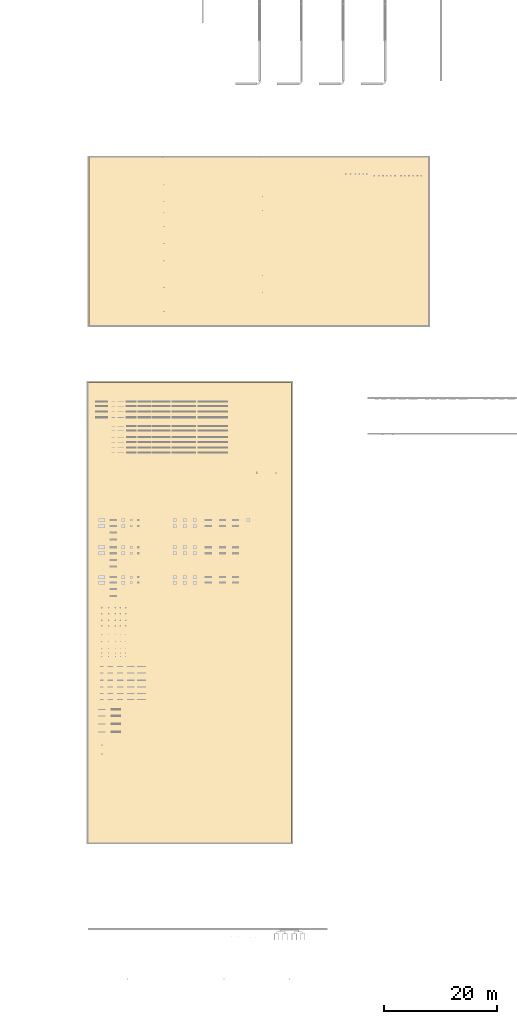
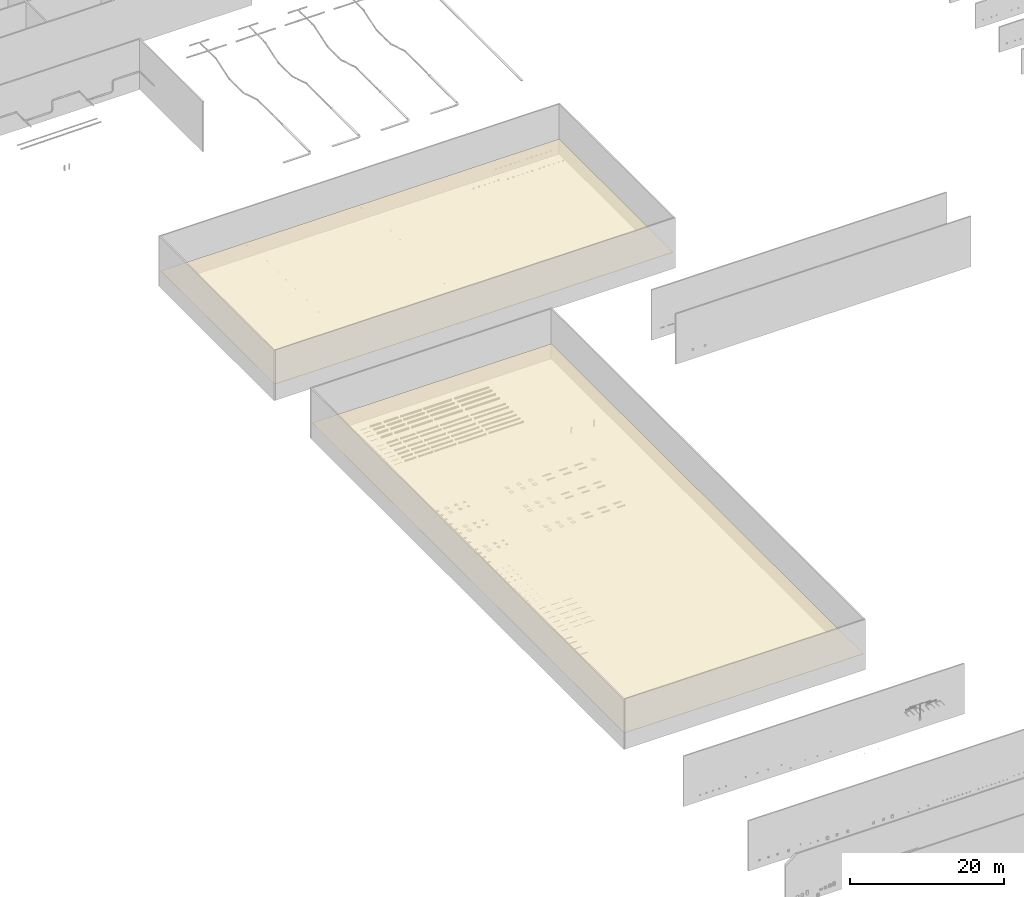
# One storey, part 2 of 197: 2 coverings.
"""IFC2X3 building model written with IfcOpenShell, lengths in metres."""

from ifc_helpers import new_model, entity, si_unit, converted_unit, direction, frame, frame_2d, origin, origin_2d_with_axis, place, context, subcontext, project, spatial, rectangle, extrude, material, layer, layer_set, layer_usage, type_object, element, save


model = new_model("IFC2X3")

# Units and contexts
model_context = context("Model", 3, precision=1e-05, world=origin(), true_north=direction((6.123031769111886e-17, 1.0)))
body_context = subcontext(model_context, "Body", "Model", "MODEL_VIEW")
ifc_project = project(units=[si_unit("LENGTHUNIT", "METRE"), converted_unit("PLANEANGLEUNIT", "DEGREE", entity("IfcPlaneAngleMeasure", 0.017453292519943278), si_unit("PLANEANGLEUNIT", "RADIAN"), dimensions=[0, 0, 0, 0, 0, 0, 0]), si_unit("AREAUNIT", "SQUARE_METRE")], contexts=[model_context])

# Site, building, storey
site_placement = place(None, origin())
site = spatial("IfcSite", under=ifc_project, at=site_placement, Name="Default", CompositionType="ELEMENT")
building_placement = place(site_placement, origin())
building = spatial("IfcBuilding", under=site, at=building_placement, CompositionType="ELEMENT")
storey_placement = place(building_placement, origin())
storey = spatial("IfcBuildingStorey", under=building, at=storey_placement, Name="Niveau 0", CompositionType="ELEMENT", Elevation=0.0)

# Coverings
ifc_material_1 = material(Name="Par défaut")
ifc_layer_1 = layer(ifc_material_1, 0.03599999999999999)
ifc_material_2 = material(Name="Panneau de plafond 600 x 600")
ifc_layer_2 = layer(ifc_material_2, 0.015999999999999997)
ifc_layer_set = layer_set([ifc_layer_1, ifc_layer_2], Name="Plafond composé:Quadrillage 600 x 600 mm")
ifc_layer_usage_1 = layer_usage(ifc_layer_set, "AXIS3", "NEGATIVE", 0.05199999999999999)
covering_type = type_object("IfcCoveringType", Name="Plafond composé:Quadrillage 600 x 600 mm", PredefinedType="CEILING")
covering_1_placement = place(storey_placement, origin())
element("IfcCovering", 1, at=covering_1_placement, inside=storey, type_object=covering_type, material=ifc_layer_usage_1, Name="Plafond composé:Quadrillage 600 x 600 mm", ObjectType="Plafond composé:Quadrillage 600 x 600 mm", PredefinedType="CEILING", context=body_context, shape_type="SweptSolid", body=[
    extrude(rectangle(XDim=29.725000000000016, YDim=59.94988457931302, at=origin_2d_with_axis()), frame((-510.3006528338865, 96.927855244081, 2.4000000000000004), z_axis=(0.0, 0.0, 1.0), x_axis=(0.0, -1.0, 0.0)), (0.0, 0.0, 1.0), 0.05200000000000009),
])
ifc_layer_usage_2 = layer_usage(ifc_layer_set, "AXIS3", "NEGATIVE", 0.05199999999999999)
covering_2_placement = place(storey_placement, origin())
element("IfcCovering", 2, at=covering_2_placement, inside=storey, type_object=covering_type, material=ifc_layer_usage_2, Name="Plafond composé:Quadrillage 600 x 600 mm", ObjectType="Plafond composé:Quadrillage 600 x 600 mm", PredefinedType="CEILING", context=body_context, shape_type="SweptSolid", body=[
    extrude(rectangle(XDim=81.34099999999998, YDim=35.96100000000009, at=frame_2d((3.552713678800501e-15, 3.552713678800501e-14), x_axis=(1.0, 0.0))), frame((-522.4532105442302, 31.356855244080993, 2.4000000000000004), z_axis=(0.0, 0.0, 1.0), x_axis=(0.0, -1.0, 0.0)), (0.0, 0.0, 1.0), 0.05200000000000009),
])

save(model, "model.ifc")
